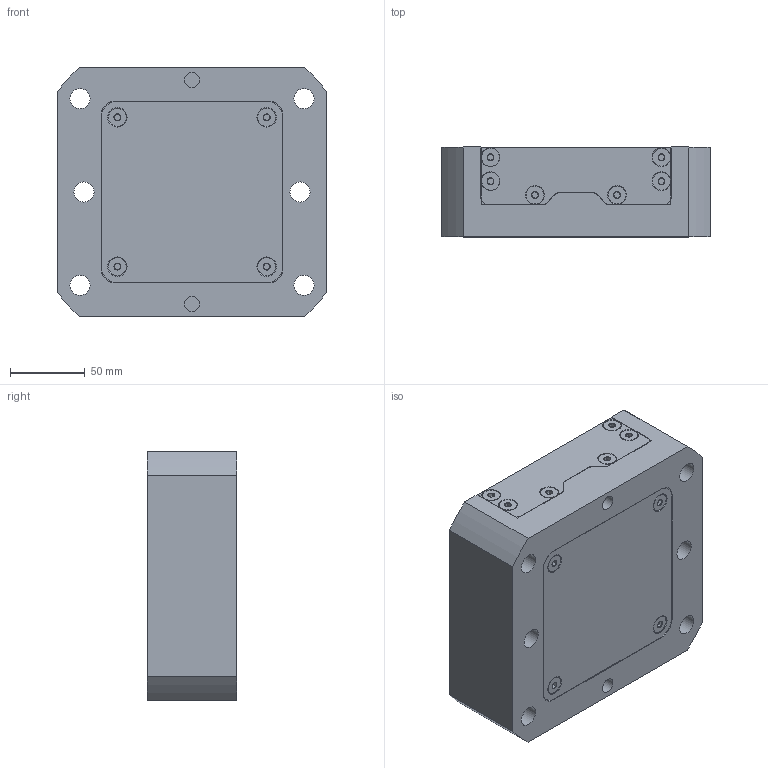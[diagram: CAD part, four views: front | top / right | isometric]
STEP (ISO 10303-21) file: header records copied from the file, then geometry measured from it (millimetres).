
FILE_DESCRIPTION (( 'STEP AP214' ), '1' );
FILE_NAME ('RL96P-67B_WEBSITE.STEP', '2025-08-12T15:30:00', ( '' ), ( '' ), 'SwSTEP 2.0', 'SolidWorks 2024', '' );
FILE_SCHEMA (( 'AUTOMOTIVE_DESIGN' ));
Length unit declared in the file: inch
Products named in the file (9): -014 O-RING 9452K580_OIL-RESISTANT BUNA-N MULTIPURPOSE O-RING_WEBSITE; 91294A240_BLACK ALLOY STEEL FLAT-HEAD SOCKET CAP SCREW_WEBSITE; RL96P-67B_WEBSITE; HW27X20.DB.A_WEBSITE_POST MILL; RL96P-167S_WEBSITE; -041 O-RING 9452K129_WEBSITE; RL96P-6_WEBSITE; -202 O-RING 9452K183_OIL-RESISTANT BUNA-N MULTIPURPOSE O-RING_WEBSITE; RL96P-3B_WEBSITE
Assembly tree (31 placements, depth 2):
  RL96P-67B_WEBSITE
    RL96P-167S_WEBSITE
    HW27X20.DB.A_WEBSITE_POST MILL  x4
    RL96P-3B_WEBSITE
    RL96P-6_WEBSITE  x2
    -041 O-RING 9452K129_WEBSITE  x2
    91294A240_BLACK ALLOY STEEL FLAT-HEAD SOCKET CAP SCREW_WEBSITE  x16
    -014 O-RING 9452K580_OIL-RESISTANT BUNA-N MULTIPURPOSE O-RING_WEBSITE
    -202 O-RING 9452K183_OIL-RESISTANT BUNA-N MULTIPURPOSE O-RING_WEBSITE  x4
Bounding box: 180 x 60 x 167 mm (x, y, z)
Volume: 1286766.2 mm3; surface area: 236695.5 mm2
Topology: 31 solids, 31 shells, 673 faces, 1485 edges, 896 vertices
Faces by surface type: plane 288, cylinder 198, cone 166, torus 16, bspline 5
Full cylindrical faces by diameter (mm): 1.587 x6, 3.3 x1, 4.5 x16, 5 x12, 6.6 x16, 8.433 x1, 10.046 x2, 11.938 x4, 12 x16, 12.573 x4, 12.751 x1, 12.763 x1, 13.492 x6, 19.101 x4, 20.015 x4, 20.036 x4, 20.638 x4, 24.13 x1, 26.977 x4, 26.993 x4, 27.051 x4, 29.21 x2, 41.275 x1, 100.381 x1, 100.457 x1, 111.125 x1, 119.304 x1
Entity records: 10550 total; most frequent: CARTESIAN_POINT 2013, DIRECTION 1784, ORIENTED_EDGE 1408, AXIS2_PLACEMENT_3D 727, EDGE_CURVE 704, EDGE_LOOP 542, VERTEX_POINT 522, FACE_OUTER_BOUND 427
